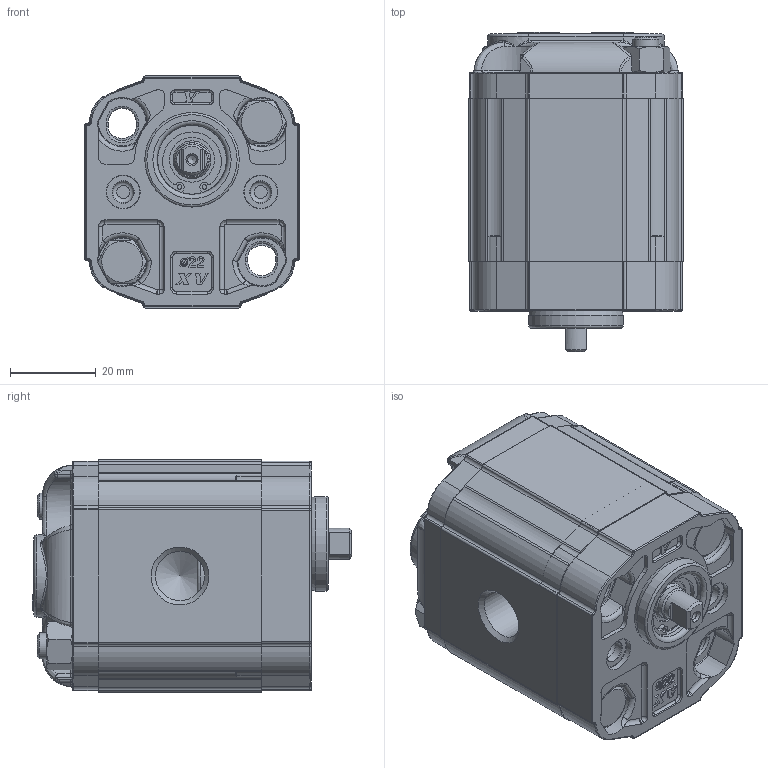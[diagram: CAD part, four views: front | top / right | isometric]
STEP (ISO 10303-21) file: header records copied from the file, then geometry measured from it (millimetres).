
FILE_DESCRIPTION( ( 'Unknown' ), '1' );
FILE_NAME( 'P:/montaggio_easy/output/STP/X0P0922BBBA.stp', 'Unknown', ( 'Unknown' ), ( 'Unknown' ), 'PSStep 14.0', 'Unknown', ' ' );
FILE_SCHEMA( ( 'AUTOMOTIVE_DESIGN { 1 0 10303 214 1 1 1 1 }' ) );
Length unit declared in the file: millimetre
Products named in the file (5): Assem1; X0P22; 0B; X0BBH38; XP017-A
Bounding box: 50 x 74.4 x 54 mm (x, y, z)
Surface area: 68745.5 mm2
Topology: 8 solids, 10 shells, 2870 faces, 7440 edges, 4732 vertices
Faces by surface type: plane 1414, cylinder 742, extrusion 248, torus 218, bspline 146, cone 86, sphere 16
Full cylindrical faces by diameter (mm): 1.053 x4, 2 x2, 5 x4, 6 x4, 6.5 x4, 7.16 x2, 7.5 x4, 7.9 x4, 7.92 x2, 8 x4, 9.318 x2, 10 x4, 10.445 x2, 11 x2, 11.445 x4, 14 x2, 16 x2, 16.2 x2, 16.8 x2, 22 x2
Entity records: 60597 total; most frequent: CARTESIAN_POINT 14408, ORIENTED_EDGE 7222, DIRECTION 7045, EDGE_CURVE 3611, AXIS2_PLACEMENT_3D 2384, VERTEX_POINT 2340, VECTOR 2277, LINE 2153
